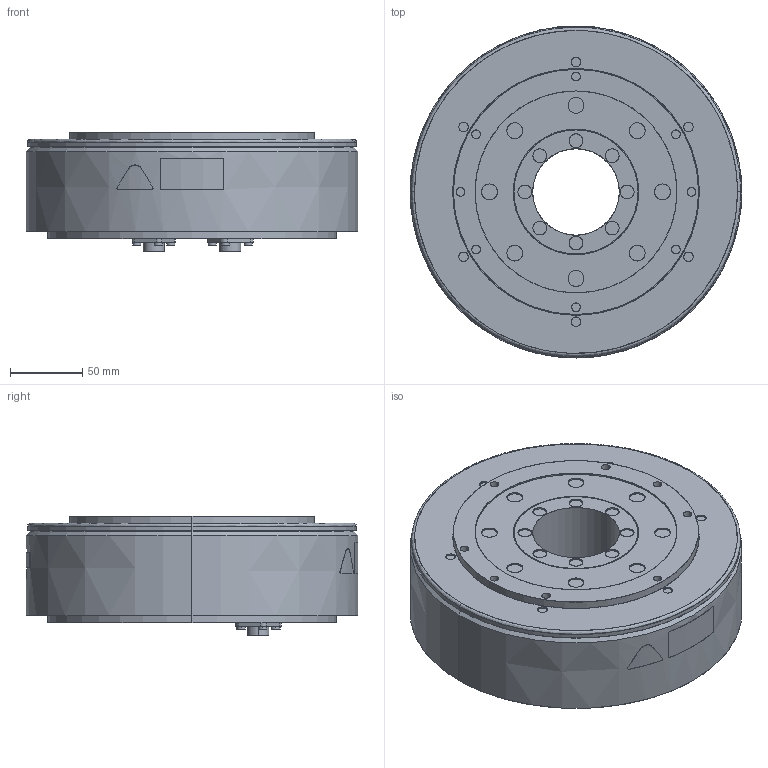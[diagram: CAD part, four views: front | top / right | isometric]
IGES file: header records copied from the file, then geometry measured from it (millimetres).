
Start section: SolidWorks IGES file using analytic representation for surfaces
Bounding box: 230 x 230.2 x 83.1 mm (x, y, z)
Surface area: 151810.3 mm2 (no closed solid volume)
Topology: 0 solids, 0 shells, 336 faces, 6911 edges, 6911 vertices
Faces by surface type: revolution 193, bspline 143
